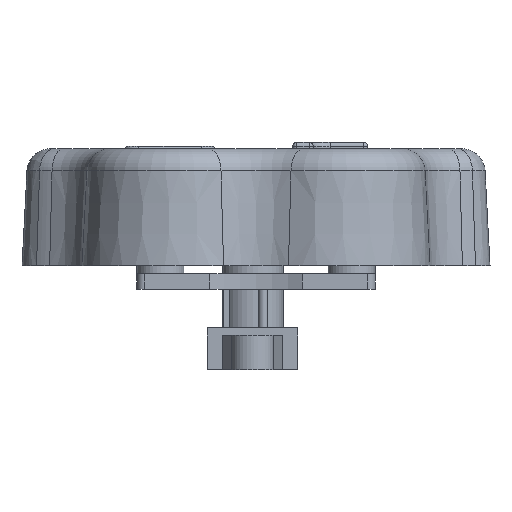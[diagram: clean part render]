
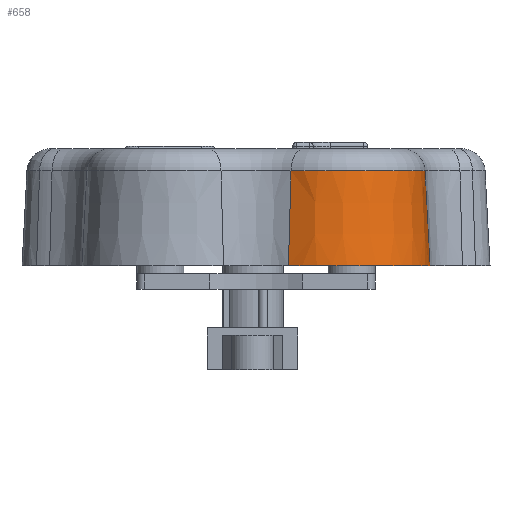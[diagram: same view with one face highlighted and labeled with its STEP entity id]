
A CAD part, left-side view. The second image highlights one B-rep face of the part: STEP entity #658.
In plain terms, the highlighted conical face has half-angle 3 degrees and reference radius 12 mm.
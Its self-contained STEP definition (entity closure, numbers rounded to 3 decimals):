
#129=CONICAL_SURFACE('',#5493,12.,3.);
#369=FACE_OUTER_BOUND('',#1187,.T.);
#658=ADVANCED_FACE('',(#369),#129,.T.);
#1187=EDGE_LOOP('',(#2232,#2233,#2234,#2235));
#1648=CIRCLE('',#5463,11.948);
#1671=CIRCLE('',#5492,11.31);
#2232=ORIENTED_EDGE('',*,*,#4151,.F.);
#2233=ORIENTED_EDGE('',*,*,#4152,.T.);
#2234=ORIENTED_EDGE('',*,*,#4148,.T.);
#2235=ORIENTED_EDGE('',*,*,#4116,.T.);
#3610=VERTEX_POINT('',#8326);
#3611=VERTEX_POINT('',#8328);
#3634=VERTEX_POINT('',#8388);
#3636=VERTEX_POINT('',#8394);
#4116=EDGE_CURVE('',#3611,#3610,#1648,.T.);
#4148=EDGE_CURVE('',#3634,#3611,#4719,.T.);
#4151=EDGE_CURVE('',#3636,#3610,#4721,.T.);
#4152=EDGE_CURVE('',#3636,#3634,#1671,.T.);
#4719=LINE('',#8387,#5049);
#4721=LINE('',#8393,#5051);
#5049=VECTOR('',#6503,1.);
#5051=VECTOR('',#6509,1.);
#5463=AXIS2_PLACEMENT_3D('',#8327,#6439,#6440);
#5492=AXIS2_PLACEMENT_3D('',#8395,#6510,#6511);
#5493=AXIS2_PLACEMENT_3D('',#8396,#6512,#6513);
#6439=DIRECTION('',(0.,0.,1.));
#6440=DIRECTION('',(1.,0.,0.));
#6503=DIRECTION('',(-0.045,0.027,-0.999));
#6509=DIRECTION('',(0.001,-0.052,-0.999));
#6510=DIRECTION('',(0.,0.,-1.));
#6511=DIRECTION('',(1.,0.,0.));
#6512=DIRECTION('',(0.,0.,-1.));
#6513=DIRECTION('',(-1.,0.,0.));
#8326=CARTESIAN_POINT('',(-17.647,-22.26,1.));
#8327=CARTESIAN_POINT('',(-17.865,-10.314,1.));
#8328=CARTESIAN_POINT('',(-28.101,-4.153,1.));
#8387=CARTESIAN_POINT('',(-28.146,-4.126,0.));
#8388=CARTESIAN_POINT('',(-27.555,-4.481,13.157));
#8393=CARTESIAN_POINT('',(-17.646,-22.312,0.));
#8394=CARTESIAN_POINT('',(-17.658,-21.623,13.157));
#8395=CARTESIAN_POINT('',(-17.865,-10.314,13.157));
#8396=CARTESIAN_POINT('',(-17.865,-10.314,0.));
